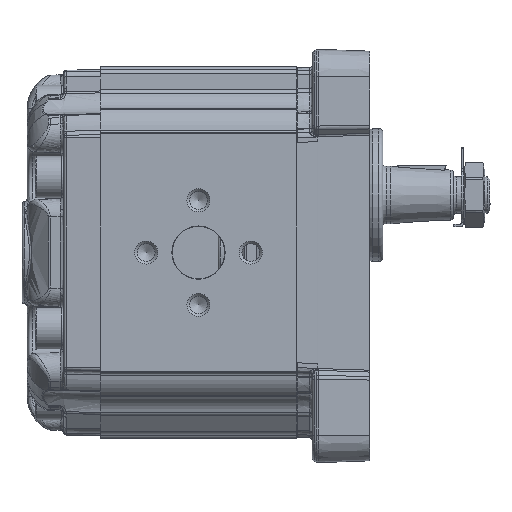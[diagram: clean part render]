
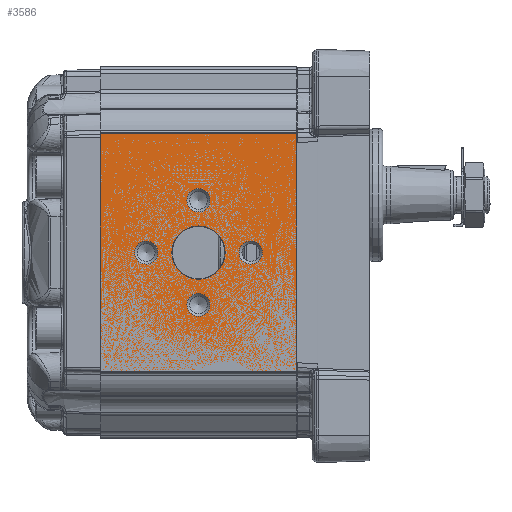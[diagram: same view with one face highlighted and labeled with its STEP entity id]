
A CAD part, left-side view. The second image highlights one B-rep face of the part: STEP entity #3586.
In plain terms, the highlighted planar face has unit normal (-1, 0, 0) as drawn and (1, 0, 0) by its records, which use the part's own axes.
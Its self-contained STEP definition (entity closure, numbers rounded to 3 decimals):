
#3586 = ADVANCED_FACE( '', ( #9785, #9786, #9787, #9788, #9789, #9790 ), #9791, .T. );
#9785 = FACE_BOUND( '', #22382, .T. );
#9786 = FACE_BOUND( '', #22383, .T. );
#9787 = FACE_BOUND( '', #22384, .T. );
#9788 = FACE_BOUND( '', #22385, .T. );
#9789 = FACE_BOUND( '', #22386, .T. );
#9790 = FACE_OUTER_BOUND( '', #22387, .T. );
#9791 = PLANE( '', #22388 );
#22382 = EDGE_LOOP( '', ( #57751 ) );
#22383 = EDGE_LOOP( '', ( #57752 ) );
#22384 = EDGE_LOOP( '', ( #57753 ) );
#22385 = EDGE_LOOP( '', ( #57754 ) );
#22386 = EDGE_LOOP( '', ( #57755 ) );
#22387 = EDGE_LOOP( '', ( #57756, #57757, #57758, #57759 ) );
#22388 = AXIS2_PLACEMENT_3D( '', #57760, #57761, #57762 );
#57751 = ORIENTED_EDGE( '', *, *, #80545, .T. );
#57752 = ORIENTED_EDGE( '', *, *, #80546, .T. );
#57753 = ORIENTED_EDGE( '', *, *, #80547, .T. );
#57754 = ORIENTED_EDGE( '', *, *, #80548, .T. );
#57755 = ORIENTED_EDGE( '', *, *, #79235, .T. );
#57756 = ORIENTED_EDGE( '', *, *, #80549, .F. );
#57757 = ORIENTED_EDGE( '', *, *, #80550, .T. );
#57758 = ORIENTED_EDGE( '', *, *, #80551, .F. );
#57759 = ORIENTED_EDGE( '', *, *, #80552, .T. );
#57760 = CARTESIAN_POINT( '', ( 57.5, -149.417, 91.388 ) );
#57761 = DIRECTION( '', ( 1., 0., 0. ) );
#57762 = DIRECTION( '', ( 0., 0., 1. ) );
#79235 = EDGE_CURVE( '', #89734, #89734, #89735, .F. );
#80545 = EDGE_CURVE( '', #92006, #92006, #92007, .F. );
#80546 = EDGE_CURVE( '', #92008, #92008, #92009, .F. );
#80547 = EDGE_CURVE( '', #92010, #92010, #92011, .F. );
#80548 = EDGE_CURVE( '', #92012, #92012, #92013, .F. );
#80549 = EDGE_CURVE( '', #92014, #92015, #92016, .T. );
#80550 = EDGE_CURVE( '', #92014, #92017, #92018, .F. );
#80551 = EDGE_CURVE( '', #92019, #92017, #92020, .T. );
#80552 = EDGE_CURVE( '', #92019, #92015, #92021, .F. );
#89734 = VERTEX_POINT( '', #105618 );
#89735 = CIRCLE( '', #105619, 10.2 );
#92006 = VERTEX_POINT( '', #111535 );
#92007 = CIRCLE( '', #111536, 4.4 );
#92008 = VERTEX_POINT( '', #111537 );
#92009 = CIRCLE( '', #111538, 4.4 );
#92010 = VERTEX_POINT( '', #111539 );
#92011 = CIRCLE( '', #111540, 4.4 );
#92012 = VERTEX_POINT( '', #111541 );
#92013 = CIRCLE( '', #111542, 4.4 );
#92014 = VERTEX_POINT( '', #111543 );
#92015 = VERTEX_POINT( '', #111544 );
#92016 = LINE( '', #111545, #111546 );
#92017 = VERTEX_POINT( '', #111547 );
#92018 = LINE( '', #111548, #111549 );
#92019 = VERTEX_POINT( '', #111550 );
#92020 = LINE( '', #111551, #111552 );
#92021 = LINE( '', #111553, #111554 );
#105618 = CARTESIAN_POINT( '', ( 57.5, 37.5, 10.2 ) );
#105619 = AXIS2_PLACEMENT_3D( '', #144017, #144018, #144019 );
#111535 = CARTESIAN_POINT( '', ( 57.5, 37.5, 24.4 ) );
#111536 = AXIS2_PLACEMENT_3D( '', #144709, #144710, #144711 );
#111537 = CARTESIAN_POINT( '', ( 57.5, 17.5, 4.4 ) );
#111538 = AXIS2_PLACEMENT_3D( '', #144712, #144713, #144714 );
#111539 = CARTESIAN_POINT( '', ( 57.5, 37.5, -15.6 ) );
#111540 = AXIS2_PLACEMENT_3D( '', #144715, #144716, #144717 );
#111541 = CARTESIAN_POINT( '', ( 57.5, 57.5, 4.4 ) );
#111542 = AXIS2_PLACEMENT_3D( '', #144718, #144719, #144720 );
#111543 = CARTESIAN_POINT( '', ( 57.5, 75., 45.5 ) );
#111544 = CARTESIAN_POINT( '', ( 57.5, 75., -45.5 ) );
#111545 = CARTESIAN_POINT( '', ( 57.5, 75., 91.388 ) );
#111546 = VECTOR( '', #144721, 1000. );
#111547 = CARTESIAN_POINT( '', ( 57.5, 0., 45.5 ) );
#111548 = CARTESIAN_POINT( '', ( 57.5, -149.417, 45.5 ) );
#111549 = VECTOR( '', #144722, 1000. );
#111550 = CARTESIAN_POINT( '', ( 57.5, 0., -45.5 ) );
#111551 = CARTESIAN_POINT( '', ( 57.5, 0., -44.978 ) );
#111552 = VECTOR( '', #144723, 1000. );
#111553 = CARTESIAN_POINT( '', ( 57.5, -149.417, -45.5 ) );
#111554 = VECTOR( '', #144724, 1000. );
#144017 = CARTESIAN_POINT( '', ( 57.5, 37.5, 0. ) );
#144018 = DIRECTION( '', ( 1., 0., 0. ) );
#144019 = DIRECTION( '', ( 0., 0., 1. ) );
#144709 = CARTESIAN_POINT( '', ( 57.5, 37.5, 20. ) );
#144710 = DIRECTION( '', ( 1., 0., 0. ) );
#144711 = DIRECTION( '', ( 0., 0., 1. ) );
#144712 = CARTESIAN_POINT( '', ( 57.5, 17.5, 0. ) );
#144713 = DIRECTION( '', ( 1., 0., 0. ) );
#144714 = DIRECTION( '', ( 0., 0., 1. ) );
#144715 = CARTESIAN_POINT( '', ( 57.5, 37.5, -20. ) );
#144716 = DIRECTION( '', ( 1., 0., 0. ) );
#144717 = DIRECTION( '', ( 0., 0., 1. ) );
#144718 = CARTESIAN_POINT( '', ( 57.5, 57.5, 0. ) );
#144719 = DIRECTION( '', ( 1., 0., 0. ) );
#144720 = DIRECTION( '', ( 0., 0., 1. ) );
#144721 = DIRECTION( '', ( 0., 0., -1. ) );
#144722 = DIRECTION( '', ( 0., 1., 0. ) );
#144723 = DIRECTION( '', ( 0., 0., 1. ) );
#144724 = DIRECTION( '', ( 0., -1., 0. ) );
